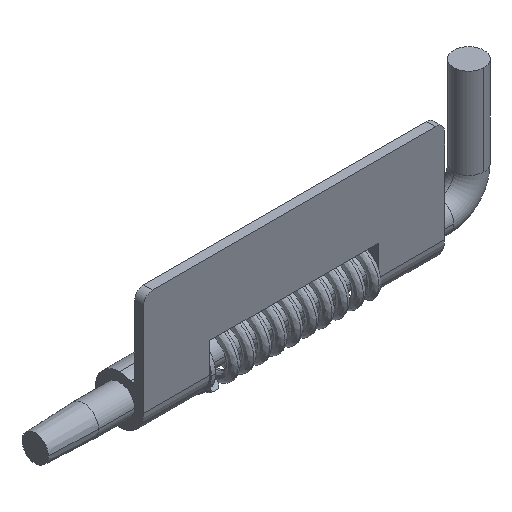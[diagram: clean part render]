
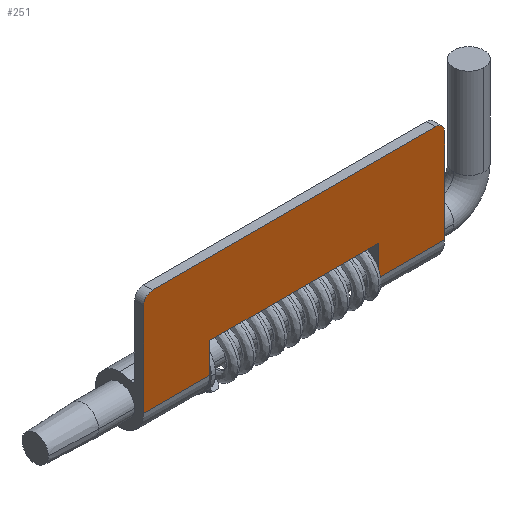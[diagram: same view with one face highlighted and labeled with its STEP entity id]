
A CAD part, isometric view. The second image highlights one B-rep face of the part: STEP entity #251.
In plain terms, the highlighted planar face has unit normal (0, -1, 0).
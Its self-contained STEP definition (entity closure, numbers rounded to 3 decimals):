
#65 = DIRECTION ( 'NONE',  ( 0., -1., 0. ) ) ;
#131 = EDGE_LOOP ( 'NONE', ( #2885, #1750, #3521, #1739, #2799, #2190, #3575, #4636, #4107, #2479 ) ) ;
#251 = ADVANCED_FACE ( 'NONE', ( #2757 ), #2728, .F. ) ;
#309 = DIRECTION ( 'NONE',  ( -1., 0., 0. ) ) ;
#316 = VECTOR ( 'NONE', #1898, 1000. ) ;
#634 = VECTOR ( 'NONE', #1009, 1000. ) ;
#801 = CARTESIAN_POINT ( 'NONE',  ( -25., 0., 15.5 ) ) ;
#977 = VECTOR ( 'NONE', #4051, 1000. ) ;
#1009 = DIRECTION ( 'NONE',  ( 0., 0., -1. ) ) ;
#1047 = VERTEX_POINT ( 'NONE', #1846 ) ;
#1055 = CARTESIAN_POINT ( 'NONE',  ( 25., 0., 0. ) ) ;
#1143 = LINE ( 'NONE', #3078, #2109 ) ;
#1183 = CARTESIAN_POINT ( 'NONE',  ( 14., 0., 5. ) ) ;
#1233 = VERTEX_POINT ( 'NONE', #1183 ) ;
#1239 = DIRECTION ( 'NONE',  ( 0., 0., 1. ) ) ;
#1290 = VECTOR ( 'NONE', #1772, 1000. ) ;
#1378 = EDGE_CURVE ( 'NONE', #1047, #1512, #2747, .T. ) ;
#1512 = VERTEX_POINT ( 'NONE', #1565 ) ;
#1565 = CARTESIAN_POINT ( 'NONE',  ( -14., 0., 5. ) ) ;
#1646 = DIRECTION ( 'NONE',  ( 0., 0., 1. ) ) ;
#1739 = ORIENTED_EDGE ( 'NONE', *, *, #2483, .F. ) ;
#1750 = ORIENTED_EDGE ( 'NONE', *, *, #3655, .T. ) ;
#1772 = DIRECTION ( 'NONE',  ( -1., 0., 0. ) ) ;
#1797 = CARTESIAN_POINT ( 'NONE',  ( 23.5, 0., 17. ) ) ;
#1833 = EDGE_CURVE ( 'NONE', #4736, #4778, #3222, .T. ) ;
#1846 = CARTESIAN_POINT ( 'NONE',  ( -14., 0., 0. ) ) ;
#1879 = VERTEX_POINT ( 'NONE', #4743 ) ;
#1898 = DIRECTION ( 'NONE',  ( -1., 0., 0. ) ) ;
#1933 = AXIS2_PLACEMENT_3D ( 'NONE', #2375, #4346, #4942 ) ;
#2021 = EDGE_CURVE ( 'NONE', #3818, #2979, #4855, .T. ) ;
#2022 = CIRCLE ( 'NONE', #4356, 1.5 ) ;
#2106 = CIRCLE ( 'NONE', #1933, 1.5 ) ;
#2109 = VECTOR ( 'NONE', #2679, 1000. ) ;
#2190 = ORIENTED_EDGE ( 'NONE', *, *, #4606, .T. ) ;
#2207 = CARTESIAN_POINT ( 'NONE',  ( 25., 0., 0. ) ) ;
#2227 = CARTESIAN_POINT ( 'NONE',  ( 14., 0., 0. ) ) ;
#2266 = VERTEX_POINT ( 'NONE', #1797 ) ;
#2375 = CARTESIAN_POINT ( 'NONE',  ( 23.5, 0., 15.5 ) ) ;
#2411 = VECTOR ( 'NONE', #309, 1000. ) ;
#2479 = ORIENTED_EDGE ( 'NONE', *, *, #2598, .T. ) ;
#2483 = EDGE_CURVE ( 'NONE', #1047, #2979, #4517, .T. ) ;
#2598 = EDGE_CURVE ( 'NONE', #3193, #2266, #2106, .T. ) ;
#2679 = DIRECTION ( 'NONE',  ( 0., 0., -1. ) ) ;
#2728 = PLANE ( 'NONE',  #2786 ) ;
#2747 = LINE ( 'NONE', #4691, #4105 ) ;
#2757 = FACE_OUTER_BOUND ( 'NONE', #131, .T. ) ;
#2786 = AXIS2_PLACEMENT_3D ( 'NONE', #4267, #3943, #1646 ) ;
#2799 = ORIENTED_EDGE ( 'NONE', *, *, #1378, .T. ) ;
#2830 = VECTOR ( 'NONE', #4470, 1000. ) ;
#2885 = ORIENTED_EDGE ( 'NONE', *, *, #3898, .T. ) ;
#2928 = CARTESIAN_POINT ( 'NONE',  ( -14., 0., 5. ) ) ;
#2932 = CARTESIAN_POINT ( 'NONE',  ( -25., 0., 0. ) ) ;
#2979 = VERTEX_POINT ( 'NONE', #3011 ) ;
#3011 = CARTESIAN_POINT ( 'NONE',  ( -25., 0., 0. ) ) ;
#3078 = CARTESIAN_POINT ( 'NONE',  ( 25., 0., 0. ) ) ;
#3145 = CARTESIAN_POINT ( 'NONE',  ( -23.5, 0., 15.5 ) ) ;
#3193 = VERTEX_POINT ( 'NONE', #3456 ) ;
#3222 = LINE ( 'NONE', #4775, #1290 ) ;
#3258 = CARTESIAN_POINT ( 'NONE',  ( 14., 0., -4. ) ) ;
#3337 = EDGE_CURVE ( 'NONE', #3193, #4736, #1143, .T. ) ;
#3456 = CARTESIAN_POINT ( 'NONE',  ( 25., 0., 15.5 ) ) ;
#3521 = ORIENTED_EDGE ( 'NONE', *, *, #2021, .T. ) ;
#3575 = ORIENTED_EDGE ( 'NONE', *, *, #4285, .T. ) ;
#3655 = EDGE_CURVE ( 'NONE', #1879, #3818, #2022, .T. ) ;
#3681 = LINE ( 'NONE', #2928, #2830 ) ;
#3818 = VERTEX_POINT ( 'NONE', #801 ) ;
#3898 = EDGE_CURVE ( 'NONE', #2266, #1879, #4602, .T. ) ;
#3943 = DIRECTION ( 'NONE',  ( 0., 1., 0. ) ) ;
#4051 = DIRECTION ( 'NONE',  ( 0., 0., -1. ) ) ;
#4105 = VECTOR ( 'NONE', #1239, 1000. ) ;
#4107 = ORIENTED_EDGE ( 'NONE', *, *, #3337, .F. ) ;
#4192 = DIRECTION ( 'NONE',  ( 0., 0., 1. ) ) ;
#4267 = CARTESIAN_POINT ( 'NONE',  ( 25., 0., 0. ) ) ;
#4285 = EDGE_CURVE ( 'NONE', #1233, #4778, #4723, .T. ) ;
#4346 = DIRECTION ( 'NONE',  ( 0., -1., 0. ) ) ;
#4356 = AXIS2_PLACEMENT_3D ( 'NONE', #3145, #65, #4192 ) ;
#4470 = DIRECTION ( 'NONE',  ( 1., 0., 0. ) ) ;
#4517 = LINE ( 'NONE', #1055, #2411 ) ;
#4602 = LINE ( 'NONE', #4624, #316 ) ;
#4606 = EDGE_CURVE ( 'NONE', #1512, #1233, #3681, .T. ) ;
#4624 = CARTESIAN_POINT ( 'NONE',  ( 25., 0., 17. ) ) ;
#4636 = ORIENTED_EDGE ( 'NONE', *, *, #1833, .F. ) ;
#4691 = CARTESIAN_POINT ( 'NONE',  ( -14., 0., -4. ) ) ;
#4723 = LINE ( 'NONE', #3258, #977 ) ;
#4736 = VERTEX_POINT ( 'NONE', #2207 ) ;
#4743 = CARTESIAN_POINT ( 'NONE',  ( -23.5, 0., 17. ) ) ;
#4775 = CARTESIAN_POINT ( 'NONE',  ( 25., 0., 0. ) ) ;
#4778 = VERTEX_POINT ( 'NONE', #2227 ) ;
#4855 = LINE ( 'NONE', #2932, #634 ) ;
#4942 = DIRECTION ( 'NONE',  ( 0., 0., 1. ) ) ;
